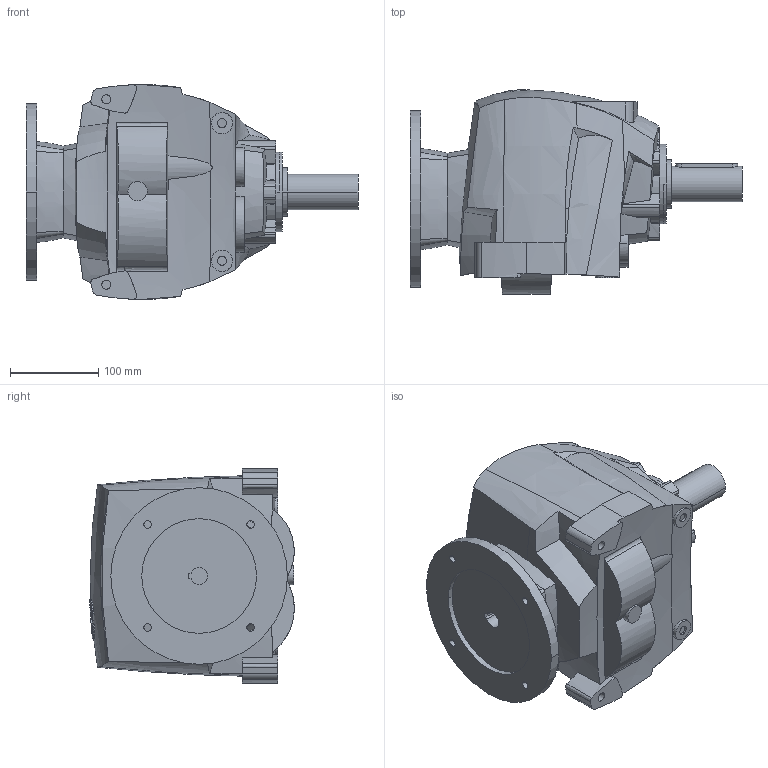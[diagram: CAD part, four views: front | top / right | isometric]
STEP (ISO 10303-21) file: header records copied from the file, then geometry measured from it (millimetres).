
FILE_DESCRIPTION((''),'2;1');
FILE_NAME('R35_UNV_PAM80_D2','2013-11-05T',('Luca'),(''),'PRO/ENGINEER BY PARAMETRIC TECHNOLOGY CORPORATION, 2008230','PRO/ENGINEER BY PARAMETRIC TECHNOLOGY CORPORATION, 2008230','');
FILE_SCHEMA(('CONFIG_CONTROL_DESIGN'));
Length unit declared in the file: millimetre
Products named in the file (1): R35_UNV_PAM80_D2
Bounding box: 376.06 x 231.74 x 243.29 mm (x, y, z)
Volume: 8977962.7 mm3; surface area: 344020.7 mm2
Topology: 3 solids, 11 shells, 442 faces, 1186 edges, 802 vertices
Faces by surface type: cylinder 142, plane 103, extrusion 92, bspline 74, cone 22, torus 9
Entity records: 22795 total; most frequent: CARTESIAN_POINT 12862, ORIENTED_EDGE 2366, DIRECTION 1453, EDGE_CURVE 1183, VERTEX_POINT 802, B_SPLINE_CURVE_WITH_KNOTS 679, AXIS2_PLACEMENT_3D 489, EDGE_LOOP 487
